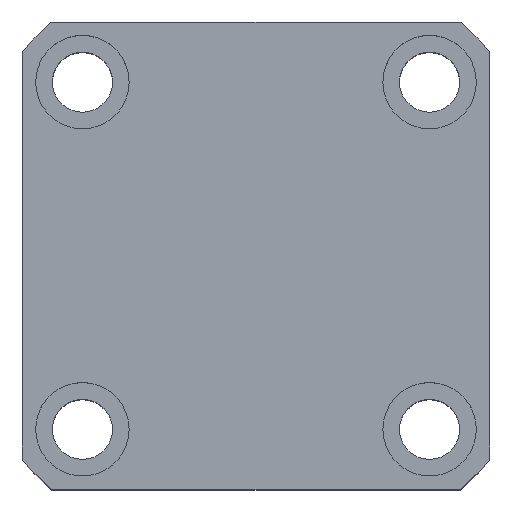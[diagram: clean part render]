
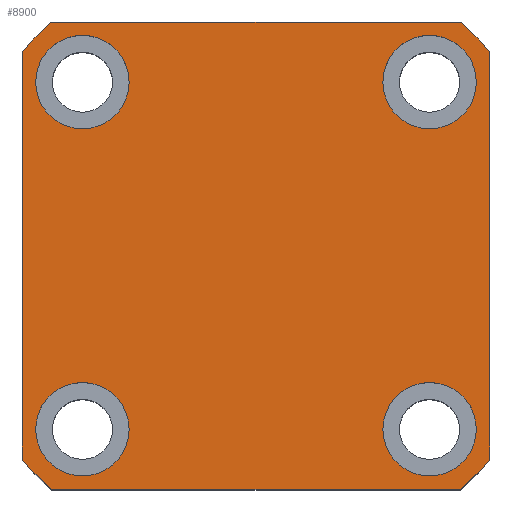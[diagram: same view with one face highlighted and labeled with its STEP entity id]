
A CAD part, top view. The second image highlights one B-rep face of the part: STEP entity #8900.
In plain terms, the highlighted planar face has unit normal (0, 0, 1).
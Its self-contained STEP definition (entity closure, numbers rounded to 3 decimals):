
#14 = CARTESIAN_POINT ( 'NONE',  ( -35., 30.615, 60. ) ) ;
#59 = CIRCLE ( 'NONE', #4733, 46.5 ) ;
#180 = CARTESIAN_POINT ( 'NONE',  ( -33., 26., 60. ) ) ;
#345 = ORIENTED_EDGE ( 'NONE', *, *, #11323, .F. ) ;
#454 = DIRECTION ( 'NONE',  ( -1., 0., 0. ) ) ;
#476 = DIRECTION ( 'NONE',  ( 1., 0., 0. ) ) ;
#585 = VERTEX_POINT ( 'NONE', #10730 ) ;
#868 = CARTESIAN_POINT ( 'NONE',  ( -26., 26., 60. ) ) ;
#1191 = CARTESIAN_POINT ( 'NONE',  ( 19., -26., 60. ) ) ;
#1201 = EDGE_CURVE ( 'NONE', #585, #10034, #7315, .T. ) ;
#1232 = ORIENTED_EDGE ( 'NONE', *, *, #5257, .T. ) ;
#1321 = CARTESIAN_POINT ( 'NONE',  ( -30.615, 35., 60. ) ) ;
#1356 = CARTESIAN_POINT ( 'NONE',  ( -26., -26., 60. ) ) ;
#1423 = CARTESIAN_POINT ( 'NONE',  ( 0., 0., 60. ) ) ;
#1706 = ORIENTED_EDGE ( 'NONE', *, *, #6479, .T. ) ;
#1914 = CARTESIAN_POINT ( 'NONE',  ( 19., 26., 60. ) ) ;
#1920 = DIRECTION ( 'NONE',  ( 1., 0., 0. ) ) ;
#2039 = LINE ( 'NONE', #9302, #4453 ) ;
#2086 = EDGE_CURVE ( 'NONE', #3788, #11631, #5158, .T. ) ;
#2200 = EDGE_LOOP ( 'NONE', ( #8825, #13364 ) ) ;
#2220 = CARTESIAN_POINT ( 'NONE',  ( 26., -26., 60. ) ) ;
#2336 = FACE_BOUND ( 'NONE', #7295, .T. ) ;
#2370 = CIRCLE ( 'NONE', #9051, 46.5 ) ;
#2384 = ORIENTED_EDGE ( 'NONE', *, *, #9108, .F. ) ;
#2388 = VERTEX_POINT ( 'NONE', #10083 ) ;
#2404 = DIRECTION ( 'NONE',  ( 1., 0., 0. ) ) ;
#2452 = DIRECTION ( 'NONE',  ( 1., 0., 0. ) ) ;
#2614 = EDGE_CURVE ( 'NONE', #6530, #10502, #12659, .T. ) ;
#2854 = CIRCLE ( 'NONE', #6167, 7. ) ;
#2858 = DIRECTION ( 'NONE',  ( 1., 0., 0. ) ) ;
#2994 = CIRCLE ( 'NONE', #3716, 7. ) ;
#3005 = AXIS2_PLACEMENT_3D ( 'NONE', #7016, #6007, #13303 ) ;
#3185 = CIRCLE ( 'NONE', #10240, 46.5 ) ;
#3251 = CARTESIAN_POINT ( 'NONE',  ( -35., -35., 60. ) ) ;
#3254 = DIRECTION ( 'NONE',  ( 1., 0., 0. ) ) ;
#3514 = LINE ( 'NONE', #12856, #3846 ) ;
#3676 = VERTEX_POINT ( 'NONE', #1191 ) ;
#3716 = AXIS2_PLACEMENT_3D ( 'NONE', #10150, #3901, #11215 ) ;
#3788 = VERTEX_POINT ( 'NONE', #1321 ) ;
#3846 = VECTOR ( 'NONE', #5547, 1000. ) ;
#3901 = DIRECTION ( 'NONE',  ( 0., 0., 1. ) ) ;
#4217 = VERTEX_POINT ( 'NONE', #7006 ) ;
#4453 = VECTOR ( 'NONE', #5198, 1000. ) ;
#4505 = CIRCLE ( 'NONE', #8671, 7. ) ;
#4615 = CIRCLE ( 'NONE', #5449, 7. ) ;
#4733 = AXIS2_PLACEMENT_3D ( 'NONE', #5502, #12808, #6558 ) ;
#4902 = AXIS2_PLACEMENT_3D ( 'NONE', #12661, #10646, #5351 ) ;
#5018 = CARTESIAN_POINT ( 'NONE',  ( -30.615, -35., 60. ) ) ;
#5049 = CARTESIAN_POINT ( 'NONE',  ( -26., -26., 60. ) ) ;
#5136 = VECTOR ( 'NONE', #454, 1000. ) ;
#5158 = CIRCLE ( 'NONE', #7901, 46.5 ) ;
#5198 = DIRECTION ( 'NONE',  ( 0., 1., 0. ) ) ;
#5228 = ORIENTED_EDGE ( 'NONE', *, *, #13125, .F. ) ;
#5257 = EDGE_CURVE ( 'NONE', #11631, #5639, #3514, .T. ) ;
#5277 = CARTESIAN_POINT ( 'NONE',  ( -35., -30.615, 60. ) ) ;
#5351 = DIRECTION ( 'NONE',  ( 1., 0., 0. ) ) ;
#5449 = AXIS2_PLACEMENT_3D ( 'NONE', #12057, #5826, #13120 ) ;
#5460 = EDGE_CURVE ( 'NONE', #6397, #8594, #10543, .T. ) ;
#5502 = CARTESIAN_POINT ( 'NONE',  ( 0., 0., 60. ) ) ;
#5547 = DIRECTION ( 'NONE',  ( 0., -1., 0. ) ) ;
#5627 = EDGE_LOOP ( 'NONE', ( #6788, #345 ) ) ;
#5639 = VERTEX_POINT ( 'NONE', #5277 ) ;
#5786 = VERTEX_POINT ( 'NONE', #6998 ) ;
#5799 = DIRECTION ( 'NONE',  ( 0., 0., 1. ) ) ;
#5826 = DIRECTION ( 'NONE',  ( 0., 0., 1. ) ) ;
#6007 = DIRECTION ( 'NONE',  ( 0., 0., 1. ) ) ;
#6042 = VERTEX_POINT ( 'NONE', #11546 ) ;
#6062 = DIRECTION ( 'NONE',  ( 0., 0., 1. ) ) ;
#6100 = DIRECTION ( 'NONE',  ( 1., 0., 0. ) ) ;
#6119 = EDGE_CURVE ( 'NONE', #10502, #5786, #2370, .T. ) ;
#6167 = AXIS2_PLACEMENT_3D ( 'NONE', #1356, #8665, #2404 ) ;
#6397 = VERTEX_POINT ( 'NONE', #7891 ) ;
#6479 = EDGE_CURVE ( 'NONE', #12815, #6042, #3185, .T. ) ;
#6530 = VERTEX_POINT ( 'NONE', #5018 ) ;
#6558 = DIRECTION ( 'NONE',  ( 1., 0., 0. ) ) ;
#6700 = CARTESIAN_POINT ( 'NONE',  ( 35., 30.615, 60. ) ) ;
#6731 = DIRECTION ( 'NONE',  ( 0., 0., 1. ) ) ;
#6742 = EDGE_CURVE ( 'NONE', #3676, #7721, #10524, .T. ) ;
#6788 = ORIENTED_EDGE ( 'NONE', *, *, #5460, .F. ) ;
#6828 = CARTESIAN_POINT ( 'NONE',  ( 33., -26., 60. ) ) ;
#6843 = ORIENTED_EDGE ( 'NONE', *, *, #6742, .F. ) ;
#6998 = CARTESIAN_POINT ( 'NONE',  ( 35., -30.615, 60. ) ) ;
#7006 = CARTESIAN_POINT ( 'NONE',  ( -19., -26., 60. ) ) ;
#7016 = CARTESIAN_POINT ( 'NONE',  ( 0., 0., 60. ) ) ;
#7037 = CARTESIAN_POINT ( 'NONE',  ( -35., 35., 60. ) ) ;
#7150 = EDGE_CURVE ( 'NONE', #6042, #3788, #13130, .T. ) ;
#7254 = FACE_OUTER_BOUND ( 'NONE', #12499, .T. ) ;
#7295 = EDGE_LOOP ( 'NONE', ( #2384, #6843 ) ) ;
#7315 = CIRCLE ( 'NONE', #4902, 7. ) ;
#7721 = VERTEX_POINT ( 'NONE', #6828 ) ;
#7751 = EDGE_CURVE ( 'NONE', #10034, #585, #4615, .T. ) ;
#7770 = VECTOR ( 'NONE', #9498, 1000. ) ;
#7891 = CARTESIAN_POINT ( 'NONE',  ( -19., 26., 60. ) ) ;
#7901 = AXIS2_PLACEMENT_3D ( 'NONE', #9658, #5799, #2858 ) ;
#8169 = DIRECTION ( 'NONE',  ( 0., 0., 1. ) ) ;
#8535 = CARTESIAN_POINT ( 'NONE',  ( 30.615, -35., 60. ) ) ;
#8594 = VERTEX_POINT ( 'NONE', #180 ) ;
#8665 = DIRECTION ( 'NONE',  ( 0., 0., 1. ) ) ;
#8671 = AXIS2_PLACEMENT_3D ( 'NONE', #5049, #12354, #6100 ) ;
#8714 = CIRCLE ( 'NONE', #9293, 7. ) ;
#8722 = DIRECTION ( 'NONE',  ( 0., 0., 1. ) ) ;
#8825 = ORIENTED_EDGE ( 'NONE', *, *, #1201, .F. ) ;
#8900 = ADVANCED_FACE ( 'NONE', ( #13446, #2336, #12783, #9994, #7254 ), #10140, .T. ) ;
#9051 = AXIS2_PLACEMENT_3D ( 'NONE', #1423, #8722, #2452 ) ;
#9108 = EDGE_CURVE ( 'NONE', #7721, #3676, #8714, .T. ) ;
#9293 = AXIS2_PLACEMENT_3D ( 'NONE', #2220, #9502, #3254 ) ;
#9302 = CARTESIAN_POINT ( 'NONE',  ( 35., 35., 60. ) ) ;
#9455 = EDGE_CURVE ( 'NONE', #5786, #12815, #2039, .T. ) ;
#9498 = DIRECTION ( 'NONE',  ( 1., 0., 0. ) ) ;
#9502 = DIRECTION ( 'NONE',  ( 0., 0., 1. ) ) ;
#9658 = CARTESIAN_POINT ( 'NONE',  ( 0., 0., 60. ) ) ;
#9671 = EDGE_CURVE ( 'NONE', #5639, #6530, #59, .T. ) ;
#9693 = EDGE_CURVE ( 'NONE', #4217, #2388, #2854, .T. ) ;
#9963 = ORIENTED_EDGE ( 'NONE', *, *, #9455, .T. ) ;
#9994 = FACE_BOUND ( 'NONE', #5627, .T. ) ;
#10034 = VERTEX_POINT ( 'NONE', #1914 ) ;
#10083 = CARTESIAN_POINT ( 'NONE',  ( -33., -26., 60. ) ) ;
#10140 = PLANE ( 'NONE',  #3005 ) ;
#10150 = CARTESIAN_POINT ( 'NONE',  ( -26., 26., 60. ) ) ;
#10155 = ORIENTED_EDGE ( 'NONE', *, *, #2614, .T. ) ;
#10240 = AXIS2_PLACEMENT_3D ( 'NONE', #12307, #6062, #13365 ) ;
#10502 = VERTEX_POINT ( 'NONE', #8535 ) ;
#10524 = CIRCLE ( 'NONE', #10939, 7. ) ;
#10543 = CIRCLE ( 'NONE', #13060, 7. ) ;
#10598 = ORIENTED_EDGE ( 'NONE', *, *, #7150, .T. ) ;
#10646 = DIRECTION ( 'NONE',  ( 0., 0., 1. ) ) ;
#10730 = CARTESIAN_POINT ( 'NONE',  ( 33., 26., 60. ) ) ;
#10917 = ORIENTED_EDGE ( 'NONE', *, *, #9671, .T. ) ;
#10932 = ORIENTED_EDGE ( 'NONE', *, *, #6119, .T. ) ;
#10939 = AXIS2_PLACEMENT_3D ( 'NONE', #12975, #6731, #476 ) ;
#11014 = ORIENTED_EDGE ( 'NONE', *, *, #9693, .F. ) ;
#11215 = DIRECTION ( 'NONE',  ( 1., 0., 0. ) ) ;
#11323 = EDGE_CURVE ( 'NONE', #8594, #6397, #2994, .T. ) ;
#11546 = CARTESIAN_POINT ( 'NONE',  ( 30.615, 35., 60. ) ) ;
#11631 = VERTEX_POINT ( 'NONE', #14 ) ;
#11891 = EDGE_LOOP ( 'NONE', ( #11014, #5228 ) ) ;
#12057 = CARTESIAN_POINT ( 'NONE',  ( 26., 26., 60. ) ) ;
#12307 = CARTESIAN_POINT ( 'NONE',  ( 0., 0., 60. ) ) ;
#12354 = DIRECTION ( 'NONE',  ( 0., 0., 1. ) ) ;
#12499 = EDGE_LOOP ( 'NONE', ( #9963, #1706, #10598, #12675, #1232, #10917, #10155, #10932 ) ) ;
#12659 = LINE ( 'NONE', #3251, #7770 ) ;
#12661 = CARTESIAN_POINT ( 'NONE',  ( 26., 26., 60. ) ) ;
#12675 = ORIENTED_EDGE ( 'NONE', *, *, #2086, .T. ) ;
#12783 = FACE_BOUND ( 'NONE', #2200, .T. ) ;
#12808 = DIRECTION ( 'NONE',  ( 0., 0., 1. ) ) ;
#12815 = VERTEX_POINT ( 'NONE', #6700 ) ;
#12856 = CARTESIAN_POINT ( 'NONE',  ( -35., 35., 60. ) ) ;
#12975 = CARTESIAN_POINT ( 'NONE',  ( 26., -26., 60. ) ) ;
#13060 = AXIS2_PLACEMENT_3D ( 'NONE', #868, #8169, #1920 ) ;
#13120 = DIRECTION ( 'NONE',  ( 1., 0., 0. ) ) ;
#13125 = EDGE_CURVE ( 'NONE', #2388, #4217, #4505, .T. ) ;
#13130 = LINE ( 'NONE', #7037, #5136 ) ;
#13303 = DIRECTION ( 'NONE',  ( 1., 0., 0. ) ) ;
#13364 = ORIENTED_EDGE ( 'NONE', *, *, #7751, .F. ) ;
#13365 = DIRECTION ( 'NONE',  ( 1., 0., 0. ) ) ;
#13446 = FACE_BOUND ( 'NONE', #11891, .T. ) ;
